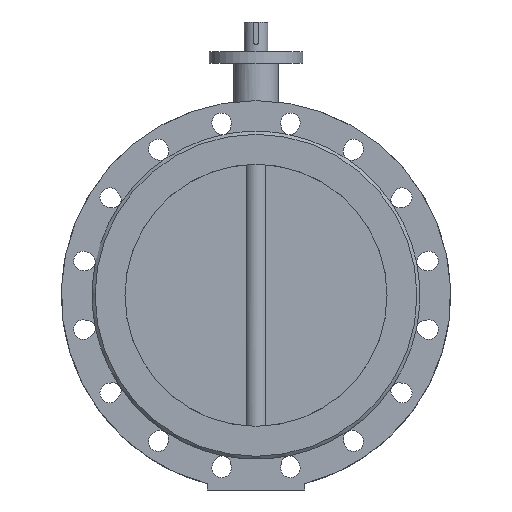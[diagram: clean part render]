
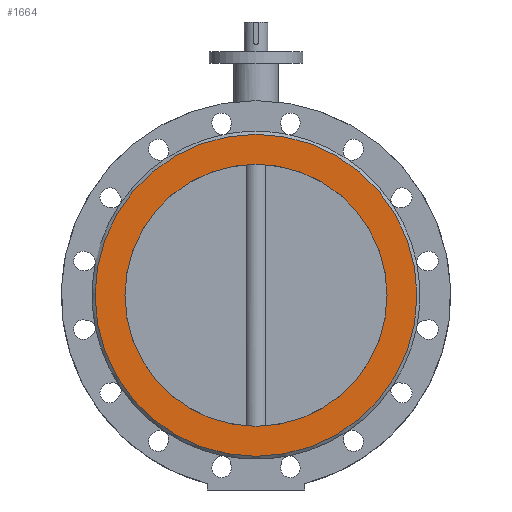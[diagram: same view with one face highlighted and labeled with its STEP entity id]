
A CAD part, front view. The second image highlights one B-rep face of the part: STEP entity #1664.
In plain terms, the highlighted planar face has unit normal (0, -1, 0).
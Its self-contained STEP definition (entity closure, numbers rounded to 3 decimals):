
#1664=ADVANCED_FACE('',(#3250,#3252),#3254,.T.);
#3250=FACE_BOUND('',#3251,.T.);
#3251=EDGE_LOOP('',(#4490));
#3252=FACE_BOUND('',#3253,.T.);
#3253=EDGE_LOOP('',(#4491));
#3254=PLANE('',#3255);
#3255=AXIS2_PLACEMENT_3D('',#3256,#3257,#3258);
#3256=CARTESIAN_POINT('',(0.,-95.,0.));
#3257=DIRECTION('',(0.,-1.,0.));
#3258=DIRECTION('',(0.,0.,1.));
#4490=ORIENTED_EDGE('',*,*,#5106,.F.);
#4491=ORIENTED_EDGE('',*,*,#5109,.T.);
#5106=EDGE_CURVE('',#6059,#6059,#6060,.T.);
#5109=EDGE_CURVE('',#6065,#6065,#6066,.T.);
#6059=VERTEX_POINT('',#8732);
#6060=CIRCLE('',#8733,215.);
#6065=VERTEX_POINT('',#8747);
#6066=CIRCLE('',#8748,175.);
#8732=CARTESIAN_POINT('',(0.,-95.,215.));
#8733=AXIS2_PLACEMENT_3D('',#8734,#8735,#8736);
#8734=CARTESIAN_POINT('',(0.,-95.,0.));
#8735=DIRECTION('',(0.,1.,0.));
#8736=DIRECTION('',(0.,0.,1.));
#8747=CARTESIAN_POINT('',(0.,-95.,175.));
#8748=AXIS2_PLACEMENT_3D('',#8749,#8750,#8751);
#8749=CARTESIAN_POINT('',(0.,-95.,0.));
#8750=DIRECTION('',(0.,1.,0.));
#8751=DIRECTION('',(0.,0.,1.));
